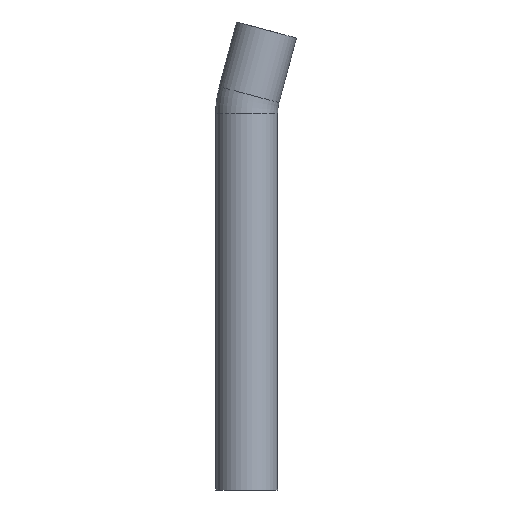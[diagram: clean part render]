
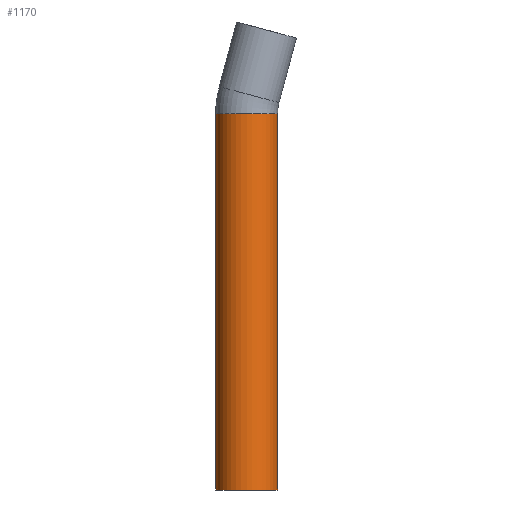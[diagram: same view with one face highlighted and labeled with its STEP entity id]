
A CAD part, front view. The second image highlights one B-rep face of the part: STEP entity #1170.
In plain terms, the highlighted cylindrical face has radius 27 mm (diameter 54 mm), a partial arc.
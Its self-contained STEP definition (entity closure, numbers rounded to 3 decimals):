
#210=CARTESIAN_POINT('',(50.717,48.566,0.));
#220=DIRECTION('',(0.,0.,1.));
#230=DIRECTION('',(1.,0.,0.));
#240=AXIS2_PLACEMENT_3D('',#210,#220,#230);
#250=CIRCLE('',#240,27.);
#260=CARTESIAN_POINT('',(77.717,48.566,0.));
#270=VERTEX_POINT('',#260);
#280=CARTESIAN_POINT('',(23.717,48.566,0.));
#290=VERTEX_POINT('',#280);
#320=EDGE_CURVE('',#290,#270,#250,.T.);
#860=CARTESIAN_POINT('',(50.717,48.566,0.));
#870=DIRECTION('',(0.,0.,1.));
#880=DIRECTION('',(1.,0.,0.));
#890=AXIS2_PLACEMENT_3D('',#860,#870,#880);
#900=CYLINDRICAL_SURFACE('',#890,27.);
#910=CARTESIAN_POINT('',(77.717,48.566,0.));
#920=DIRECTION('',(0.,0.,1.));
#930=VECTOR('',#920,1.);
#940=LINE('',#910,#930);
#950=CARTESIAN_POINT('',(77.717,48.566,328.443));
#960=VERTEX_POINT('',#950);
#970=EDGE_CURVE('',#270,#960,#940,.T.);
#980=ORIENTED_EDGE('',*,*,#970,.T.);
#990=ORIENTED_EDGE('',*,*,#320,.T.);
#1000=CARTESIAN_POINT('',(23.717,48.566,0.));
#1010=DIRECTION('',(0.,0.,1.));
#1020=VECTOR('',#1010,1.);
#1030=LINE('',#1000,#1020);
#1040=CARTESIAN_POINT('',(23.717,48.566,328.443));
#1050=VERTEX_POINT('',#1040);
#1060=EDGE_CURVE('',#290,#1050,#1030,.T.);
#1070=ORIENTED_EDGE('',*,*,#1060,.F.);
#1080=CARTESIAN_POINT('',(50.717,48.566,328.443));
#1090=DIRECTION('',(0.,0.,1.));
#1100=DIRECTION('',(1.,0.,0.));
#1110=AXIS2_PLACEMENT_3D('',#1080,#1090,#1100);
#1120=CIRCLE('',#1110,27.);
#1130=EDGE_CURVE('',#1050,#960,#1120,.T.);
#1140=ORIENTED_EDGE('',*,*,#1130,.F.);
#1150=EDGE_LOOP('',(#1140,#1070,#990,#980));
#1160=FACE_OUTER_BOUND('',#1150,.T.);
#1170=ADVANCED_FACE('',(#1160),#900,.T.);
